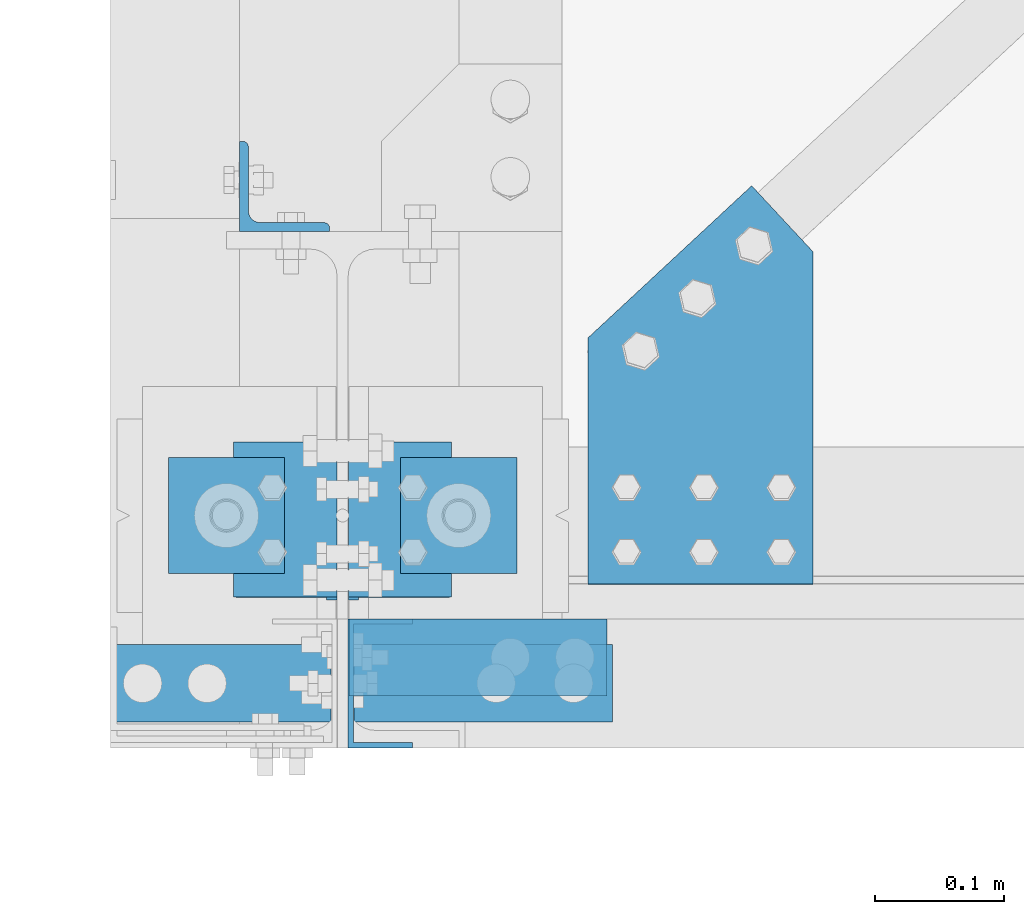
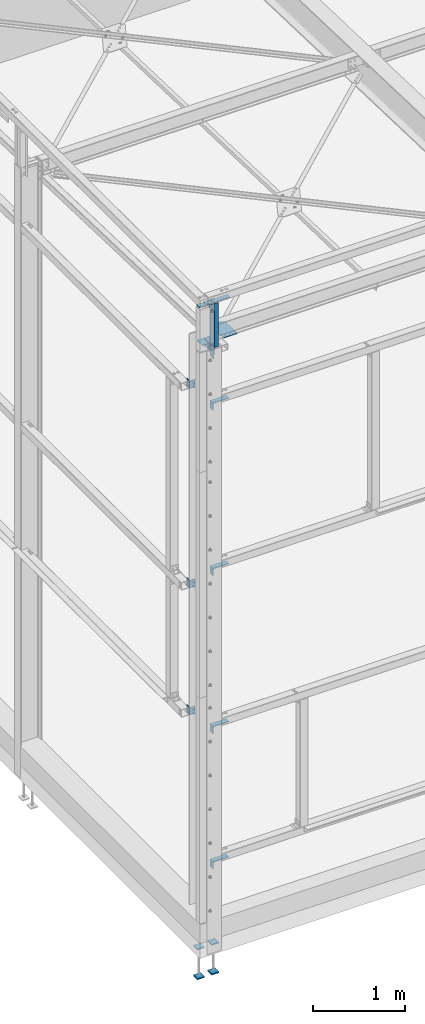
# One storey, part 60 of 362: 17 beams, 14 elements without a shape of their own.
"""IFC2X3 building model written with IfcOpenShell, lengths in millimetres."""

from ifc_helpers import new_model, si_unit, frame, origin_with_axes, origin_2d_with_axis, place, context, subcontext, project, spatial, polyline, l_section, u_section, outline, extrude, boolean, clip, halfspace, material, type_object, element, aggregate, save


model = new_model("IFC2X3")

# Units and contexts
model_context = context("Model", 3, precision=1e-05, world=origin_with_axes())
body_context = subcontext(model_context, "Body", "Model", "MODEL_VIEW")
ifc_project = project(units=[si_unit("LENGTHUNIT", "METRE", prefix="MILLI"), si_unit("AREAUNIT", "SQUARE_METRE"), si_unit("VOLUMEUNIT", "CUBIC_METRE"), si_unit("MASSUNIT", "GRAM", prefix="KILO"), si_unit("TIMEUNIT", "SECOND"), si_unit("PLANEANGLEUNIT", "RADIAN"), si_unit("SOLIDANGLEUNIT", "STERADIAN"), si_unit("THERMODYNAMICTEMPERATUREUNIT", "DEGREE_CELSIUS"), si_unit("LUMINOUSINTENSITYUNIT", "LUMEN")], contexts=[model_context])

# Site, building, storey
site_placement = place(None, origin_with_axes())
site = spatial("IfcSite", under=ifc_project, at=site_placement, Name="Undefined", CompositionType="ELEMENT")
building_placement = place(site_placement, origin_with_axes())
building = spatial("IfcBuilding", under=site, at=building_placement, Name="Undefined", CompositionType="ELEMENT")
storey_placement = place(building_placement, origin_with_axes())
storey = spatial("IfcBuildingStorey", under=building, at=storey_placement, Name="Undefined", CompositionType="ELEMENT", Elevation=0.0)

# Assembly, beam
assembly_1_placement = place(storey_placement, origin_with_axes())
assembly_1 = element("IfcElementAssembly", 1, at=assembly_1_placement, inside=storey, AssemblyPlace="NOTDEFINED", PredefinedType="NOTDEFINED")
ifc_material = material(Name="Undefined/S235-E24")
beam_type_1 = type_object("IfcBeamType", Name="L80*8", PredefinedType="NOTDEFINED")
beam_1_placement = place(assembly_1_placement, frame((-44.4999999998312, -64.3677476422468, 7811.91124581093), z_axis=(-1.05403257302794e-09, -0.0314112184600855, -0.999506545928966), x_axis=(3.14103090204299e-11, 0.999506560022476, -0.0314107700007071)))
beam_1 = element("IfcBeam", 2, at=beam_1_placement, type_object=beam_type_1, material=ifc_material, Name="ATTACHE", ObjectType="L80*8", context=body_context, shape_type="SweptSolid", body=[
    extrude(l_section(Depth=80.0, Width=80.0, Thickness=8.0, FilletRadius=10.0, EdgeRadius=5.0, at=origin_2d_with_axis()), frame((120.0, 0.0, 0.0), z_axis=(-1.0, 0.0, 0.0), x_axis=(0.0, -1.0, 0.0)), (0.0, 0.0, 1.0), 120.0),
])
aggregate(assembly_1, [beam_1])

assembly_2_placement = place(storey_placement, origin_with_axes())
assembly_2 = element("IfcElementAssembly", 3, at=assembly_2_placement, inside=storey, AssemblyPlace="NOTDEFINED", PredefinedType="NOTDEFINED")
beam_2_placement = place(assembly_2_placement, frame((44.4999999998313, 55.5730378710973, 7808.14189965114), z_axis=(-1.05403257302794e-09, -0.0314112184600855, -0.999506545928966), x_axis=(0.0, -0.999506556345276, 0.031410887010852)))
beam_2 = element("IfcBeam", 4, at=beam_2_placement, type_object=beam_type_1, material=ifc_material, Name="ATTACHE", ObjectType="L80*8", context=body_context, shape_type="SweptSolid", body=[
    extrude(l_section(Depth=80.0, Width=80.0, Thickness=8.0, FilletRadius=10.0, EdgeRadius=5.0, at=origin_2d_with_axis()), frame((120.0, 0.0, 0.0), z_axis=(-1.0, 0.0, 0.0), x_axis=(0.0, -1.0, 0.0)), (0.0, 0.0, 1.0), 120.0),
])
aggregate(assembly_2, [beam_2])

assembly_3_placement = place(storey_placement, origin_with_axes())
assembly_3 = element("IfcElementAssembly", 5, at=assembly_3_placement, inside=storey, AssemblyPlace="NOTDEFINED", PredefinedType="NOTDEFINED")
beam_type_2 = type_object("IfcBeamType", Name="UPF-100*50*4", PredefinedType="NOTDEFINED")
beam_3_placement = place(assembly_3_placement, frame((29.3000008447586, -130.000001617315, 8445.00161512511), z_axis=(0.0, 1.0, 0.0), x_axis=(0.0, 0.0, -1.0)))
beam_3 = element("IfcBeam", 6, at=beam_3_placement, type_object=beam_type_2, material=ifc_material, Name="BAIONNETTE", ObjectType="UPF-100*50*4", context=body_context, shape_type="CSG", body=[
    boolean("DIFFERENCE", extrude(u_section(Depth=100.0, FlangeWidth=50.0, WebThickness=4.0, FlangeThickness=4.0, at=origin_2d_with_axis()), frame((754.998684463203, 0.0, 0.0), z_axis=(-1.0, 0.0, 0.0), x_axis=(0.0, -1.0, 0.0)), (0.0, 0.0, 1.0), 755.0), extrude(outline(polyline([(0.0, 0.0), (19.9999999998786, -3.63797880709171e-12), (19.9999939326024, 170.0), (-6.06739681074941e-06, 170.0), (0.0, 0.0)])), frame((584.998600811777, -27.5000000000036, -50.0000000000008), z_axis=(0.0, 1.0, 0.0), x_axis=(0.0, 0.0, 1.0)), (0.0, 0.0, 1.0), 55.0)),
])
aggregate(assembly_3, [beam_3])

assembly_4_placement = place(storey_placement, origin_with_axes())
assembly_4 = element("IfcElementAssembly", 7, at=assembly_4_placement, inside=storey, AssemblyPlace="NOTDEFINED", PredefinedType="NOTDEFINED")
beam_type_3 = type_object("IfcBeamType", Name="L70*7", PredefinedType="NOTDEFINED")
beam_4_placement = place(assembly_4_placement, frame((-45.0000013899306, 255.000037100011, 7200.00005189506), z_axis=(0.0, 1.0, 0.0), x_axis=(0.0, 0.0, -1.0)))
beam_4 = element("IfcBeam", 8, at=beam_4_placement, type_object=beam_type_3, material=ifc_material, Name="ATTACHE", ObjectType="L70*7", context=body_context, shape_type="SweptSolid", body=[
    extrude(l_section(Depth=70.0, Width=70.0, Thickness=7.0, FilletRadius=9.0, EdgeRadius=4.5, at=origin_2d_with_axis()), frame((99.9999999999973, -1.63709046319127e-11, 7.73070496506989e-12), z_axis=(-1.0, 0.0, 0.0), x_axis=(0.0, -1.0, 0.0)), (0.0, 0.0, 1.0), 100.0),
])
aggregate(assembly_4, [beam_4])

assembly_5_placement = place(storey_placement, origin_with_axes())
assembly_5 = element("IfcElementAssembly", 9, at=assembly_5_placement, inside=storey, AssemblyPlace="NOTDEFINED", PredefinedType="NOTDEFINED")
beam_5_placement = place(assembly_5_placement, frame((-45.0000013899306, 254.999986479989, 2860.0000275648), z_axis=(0.0, 1.0, 0.0), x_axis=(0.0, 0.0, -1.0)))
beam_5 = element("IfcBeam", 10, at=beam_5_placement, type_object=beam_type_3, material=ifc_material, Name="ATTACHE", ObjectType="L70*7", context=body_context, shape_type="SweptSolid", body=[
    extrude(l_section(Depth=70.0, Width=70.0, Thickness=7.0, FilletRadius=9.0, EdgeRadius=4.5, at=origin_2d_with_axis()), frame((99.9999999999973, -1.63709046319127e-11, 7.73070496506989e-12), z_axis=(-1.0, 0.0, 0.0), x_axis=(0.0, -1.0, 0.0)), (0.0, 0.0, 1.0), 100.0),
])
aggregate(assembly_5, [beam_5])

assembly_6_placement = place(storey_placement, origin_with_axes())
assembly_6 = element("IfcElementAssembly", 11, at=assembly_6_placement, inside=storey, AssemblyPlace="NOTDEFINED", PredefinedType="NOTDEFINED")
beam_6_placement = place(assembly_6_placement, frame((-45.0000013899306, 255.0, 4550.00002768), z_axis=(0.0, 1.0, 0.0), x_axis=(0.0, 0.0, -1.0)))
beam_6 = element("IfcBeam", 12, at=beam_6_placement, type_object=beam_type_3, material=ifc_material, Name="ATTACHE", ObjectType="L70*7", context=body_context, shape_type="SweptSolid", body=[
    extrude(l_section(Depth=70.0, Width=70.0, Thickness=7.0, FilletRadius=9.0, EdgeRadius=4.5, at=origin_2d_with_axis()), frame((99.9999999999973, -1.63709046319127e-11, 7.73070496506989e-12), z_axis=(-1.0, 0.0, 0.0), x_axis=(0.0, -1.0, 0.0)), (0.0, 0.0, 1.0), 100.0),
])
aggregate(assembly_6, [beam_6])

assembly_7_placement = place(storey_placement, origin_with_axes())
assembly_7 = element("IfcElementAssembly", 13, at=assembly_7_placement, inside=storey, AssemblyPlace="NOTDEFINED", PredefinedType="NOTDEFINED")
beam_type_4 = type_object("IfcBeamType", Name="TOLE6*175", PredefinedType="NOTDEFINED")
beam_7_placement = place(assembly_7_placement, frame((190.000000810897, 137.436963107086, 7842.58749078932), z_axis=(-1.05403257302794e-09, -0.0314112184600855, -0.999506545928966), x_axis=(0.732433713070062, 0.680502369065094, -0.0213864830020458)))
beam_7 = element("IfcBeam", 14, at=beam_7_placement, type_object=beam_type_4, material=ifc_material, Name="GOUSSET", ObjectType="TOLE6*175", context=body_context, shape_type="SweptSolid", body=[
    extrude(outline(polyline([(0.0, 0.0), (173.393615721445, 1.05160324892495e-12), (173.393615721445, 70.0000000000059), (-1.93874347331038, 258.619415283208), (-129.864166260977, 139.705551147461), (0.0, 0.0)])), frame((0.0, 0.0, -3.0), z_axis=(0.0, 0.0, 1.0), x_axis=(1.0, 0.0, 0.0)), (0.0, 0.0, 1.0), 6.0),
])
aggregate(assembly_7, [beam_7])

assembly_8_placement = place(storey_placement, origin_with_axes())
assembly_8 = element("IfcElementAssembly", 15, at=assembly_8_placement, inside=storey, AssemblyPlace="NOTDEFINED", PredefinedType="NOTDEFINED")
beam_type_5 = type_object("IfcBeamType", Name="L200*100*10", PredefinedType="NOTDEFINED")
beam_8_placement = place(assembly_8_placement, frame((-109.0000001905, -100.00000666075, 8400.0), z_axis=(-1.0, 0.0, 0.0), x_axis=(0.0, -1.0, 0.0)))
beam_8 = element("IfcBeam", 16, at=beam_8_placement, type_object=beam_type_5, material=ifc_material, Name="ATTACHE", ObjectType="L200*100*10", context=body_context, shape_type="Clipping", body=[
    clip(extrude(l_section(Depth=200.0, Width=100.0, Thickness=10.0, FilletRadius=15.0, EdgeRadius=7.5, at=origin_2d_with_axis()), frame((60.0, 0.0, 0.0), z_axis=(-1.0, 0.0, 0.0), x_axis=(0.0, -1.0, 0.0)), (0.0, 0.0, 1.0), 60.0), halfspace(frame((59.999999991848, 50.0000000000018, 70.9999987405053), z_axis=(0.0, 0.0, 1.0), x_axis=(0.0, -1.0, 0.0)), False)),
])
aggregate(assembly_8, [beam_8])

assembly_9_placement = place(storey_placement, origin_with_axes())
assembly_9 = element("IfcElementAssembly", 17, at=assembly_9_placement, inside=storey, AssemblyPlace="NOTDEFINED", PredefinedType="NOTDEFINED")
beam_9_placement = place(assembly_9_placement, frame((109.000003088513, -160.000007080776, 8400.0), z_axis=(1.0, 0.0, 0.0), x_axis=(0.0, 1.0, 0.0)))
beam_9 = element("IfcBeam", 18, at=beam_9_placement, type_object=beam_type_5, material=ifc_material, Name="ATTACHE", ObjectType="L200*100*10", context=body_context, shape_type="SweptSolid", body=[
    extrude(l_section(Depth=200.0, Width=100.0, Thickness=10.0, FilletRadius=15.0, EdgeRadius=7.5, at=origin_2d_with_axis()), frame((60.0, 0.0, 0.0), z_axis=(-1.0, 0.0, 0.0), x_axis=(0.0, -1.0, 0.0)), (0.0, 0.0, 1.0), 60.0),
])
aggregate(assembly_9, [beam_9])

assembly_10_placement = place(storey_placement, origin_with_axes())
assembly_10 = element("IfcElementAssembly", 19, at=assembly_10_placement, inside=storey, AssemblyPlace="NOTDEFINED", PredefinedType="NOTDEFINED")
beam_10_placement = place(assembly_10_placement, frame((105.000003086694, -140.000007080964, 950.0), z_axis=(1.0, 0.0, 0.0), x_axis=(0.0, 1.0, 0.0)))
beam_10 = element("IfcBeam", 20, at=beam_10_placement, type_object=beam_type_5, material=ifc_material, Name="ATTACHE", ObjectType="L200*100*10", context=body_context, shape_type="SweptSolid", body=[
    extrude(l_section(Depth=200.0, Width=100.0, Thickness=10.0, FilletRadius=15.0, EdgeRadius=7.5, at=origin_2d_with_axis()), frame((60.0, 0.0, 0.0), z_axis=(-1.0, 0.0, 0.0), x_axis=(0.0, -1.0, 0.0)), (0.0, 0.0, 1.0), 60.0),
])
aggregate(assembly_10, [beam_10])

assembly_11_placement = place(storey_placement, origin_with_axes())
assembly_11 = element("IfcElementAssembly", 21, at=assembly_11_placement, inside=storey, AssemblyPlace="NOTDEFINED", PredefinedType="NOTDEFINED")
beam_11_placement = place(assembly_11_placement, frame((105.000003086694, -140.000007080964, 2750.0), z_axis=(1.0, 0.0, 0.0), x_axis=(0.0, 1.0, 0.0)))
beam_11 = element("IfcBeam", 22, at=beam_11_placement, type_object=beam_type_5, material=ifc_material, Name="ATTACHE", ObjectType="L200*100*10", context=body_context, shape_type="SweptSolid", body=[
    extrude(l_section(Depth=200.0, Width=100.0, Thickness=10.0, FilletRadius=15.0, EdgeRadius=7.5, at=origin_2d_with_axis()), frame((60.0, 0.0, 0.0), z_axis=(-1.0, 0.0, 0.0), x_axis=(0.0, -1.0, 0.0)), (0.0, 0.0, 1.0), 60.0),
])
aggregate(assembly_11, [beam_11])

assembly_12_placement = place(storey_placement, origin_with_axes())
assembly_12 = element("IfcElementAssembly", 23, at=assembly_12_placement, inside=storey, AssemblyPlace="NOTDEFINED", PredefinedType="NOTDEFINED")
beam_12_placement = place(assembly_12_placement, frame((105.000003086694, -140.000007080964, 4850.0), z_axis=(1.0, 0.0, 0.0), x_axis=(0.0, 1.0, 0.0)))
beam_12 = element("IfcBeam", 24, at=beam_12_placement, type_object=beam_type_5, material=ifc_material, Name="ATTACHE", ObjectType="L200*100*10", context=body_context, shape_type="SweptSolid", body=[
    extrude(l_section(Depth=200.0, Width=100.0, Thickness=10.0, FilletRadius=15.0, EdgeRadius=7.5, at=origin_2d_with_axis()), frame((60.0, 0.0, 0.0), z_axis=(-1.0, 0.0, 0.0), x_axis=(0.0, -1.0, 0.0)), (0.0, 0.0, 1.0), 60.0),
])
aggregate(assembly_12, [beam_12])

assembly_13_placement = place(storey_placement, origin_with_axes())
assembly_13 = element("IfcElementAssembly", 25, at=assembly_13_placement, inside=storey, AssemblyPlace="NOTDEFINED", PredefinedType="NOTDEFINED")
beam_13_placement = place(assembly_13_placement, frame((105.000003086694, -140.000007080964, 7050.0), z_axis=(1.0, 0.0, 0.0), x_axis=(0.0, 1.0, 0.0)))
beam_13 = element("IfcBeam", 26, at=beam_13_placement, type_object=beam_type_5, material=ifc_material, Name="ATTACHE", ObjectType="L200*100*10", context=body_context, shape_type="SweptSolid", body=[
    extrude(l_section(Depth=200.0, Width=100.0, Thickness=10.0, FilletRadius=15.0, EdgeRadius=7.5, at=origin_2d_with_axis()), frame((60.0, 0.0, 0.0), z_axis=(-1.0, 0.0, 0.0), x_axis=(0.0, -1.0, 0.0)), (0.0, 0.0, 1.0), 60.0),
])
aggregate(assembly_13, [beam_13])

# Assembly, beams
assembly_14_placement = place(storey_placement, origin_with_axes())
assembly_14 = element("IfcElementAssembly", 27, at=assembly_14_placement, inside=storey, Name="PRESCELLEMENT PS24", AssemblyPlace="NOTDEFINED", PredefinedType="NOTDEFINED")
beam_type_6 = type_object("IfcBeamType", Name="PL15*90", PredefinedType="NOTDEFINED")
beam_14_placement = place(assembly_14_placement, frame((-45.0028495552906, -45.0, -177.5), z_axis=(0.0, 0.0, 1.0), x_axis=(0.0, 1.0, 0.0)))
beam_14 = element("IfcBeam", 28, at=beam_14_placement, type_object=beam_type_6, material=ifc_material, Name="PLAQUETTE", ObjectType="PL15*90", context=body_context, shape_type="SweptSolid", body=[
    extrude(outline(polyline([(0.0, 0.0), (90.0, 0.0), (90.0, 90.0), (0.0, 90.0), (0.0, 0.0)])), frame((0.0, 0.0, -7.5), z_axis=(0.0, 0.0, 1.0), x_axis=(1.0, 0.0, 0.0)), (0.0, 0.0, 1.0), 15.0),
])
beam_15_placement = place(assembly_14_placement, frame((134.997150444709, -45.0, -177.5), z_axis=(0.0, 0.0, 1.0), x_axis=(0.0, 1.0, 0.0)))
beam_15 = element("IfcBeam", 29, at=beam_15_placement, type_object=beam_type_6, material=ifc_material, Name="PLAQUETTE", ObjectType="PL15*90", context=body_context, shape_type="SweptSolid", body=[
    extrude(outline(polyline([(0.0, 0.0), (90.0, 0.0), (90.0, 90.0), (0.0, 90.0), (0.0, 0.0)])), frame((0.0, 0.0, -7.5), z_axis=(0.0, 0.0, 1.0), x_axis=(1.0, 0.0, 0.0)), (0.0, 0.0, 1.0), 15.0),
])
beam_16_placement = place(assembly_14_placement, frame((-45.0028495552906, -45.0, -572.5), z_axis=(0.0, 0.0, 1.0), x_axis=(0.0, 1.0, 0.0)))
beam_16 = element("IfcBeam", 30, at=beam_16_placement, type_object=beam_type_6, material=ifc_material, Name="PLAQUETTE", ObjectType="PL15*90", context=body_context, shape_type="SweptSolid", body=[
    extrude(outline(polyline([(0.0, 0.0), (90.0, 0.0), (90.0, 90.0), (0.0, 90.0), (0.0, 0.0)])), frame((0.0, 0.0, -7.5), z_axis=(0.0, 0.0, 1.0), x_axis=(1.0, 0.0, 0.0)), (0.0, 0.0, 1.0), 15.0),
])
beam_17_placement = place(assembly_14_placement, frame((134.997150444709, -45.0, -572.5), z_axis=(0.0, 0.0, 1.0), x_axis=(0.0, 1.0, 0.0)))
beam_17 = element("IfcBeam", 31, at=beam_17_placement, type_object=beam_type_6, material=ifc_material, Name="PLAQUETTE", ObjectType="PL15*90", context=body_context, shape_type="SweptSolid", body=[
    extrude(outline(polyline([(0.0, 0.0), (90.0, 0.0), (90.0, 90.0), (0.0, 90.0), (0.0, 0.0)])), frame((0.0, 0.0, -7.5), z_axis=(0.0, 0.0, 1.0), x_axis=(1.0, 0.0, 0.0)), (0.0, 0.0, 1.0), 15.0),
])
aggregate(assembly_14, [beam_14, beam_15, beam_16, beam_17])

save(model, "model.ifc")
